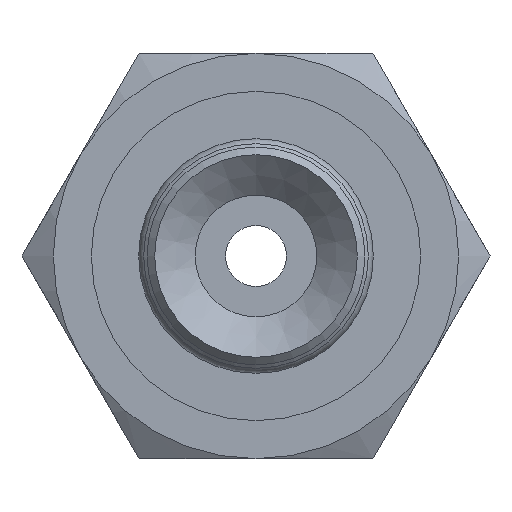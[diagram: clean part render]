
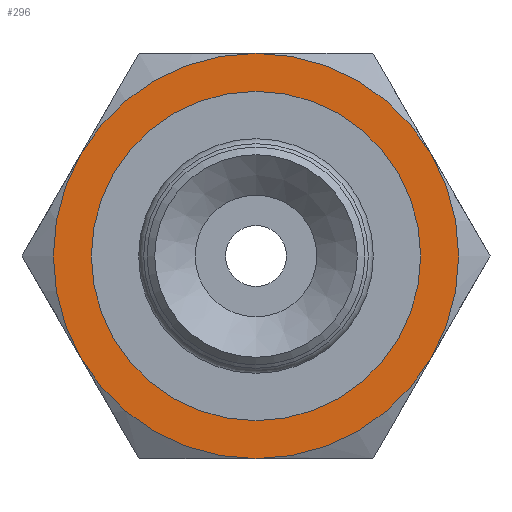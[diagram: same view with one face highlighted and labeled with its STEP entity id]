
A CAD part, front view. The second image highlights one B-rep face of the part: STEP entity #296.
In plain terms, the highlighted planar face has unit normal (0, -1, 0).
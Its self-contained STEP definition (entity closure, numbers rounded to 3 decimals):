
#296=ADVANCED_FACE('',(#407,#408),#409,.T.);
#407=FACE_BOUND('',#585,.T.);
#408=FACE_OUTER_BOUND('',#586,.T.);
#409=PLANE('',#587);
#585=EDGE_LOOP('',(#848));
#586=EDGE_LOOP('',(#849,#850,#851,#852,#853,#854));
#587=AXIS2_PLACEMENT_3D('',#855,#856,#857);
#848=ORIENTED_EDGE('',*,*,#1111,.F.);
#849=ORIENTED_EDGE('',*,*,#1095,.T.);
#850=ORIENTED_EDGE('',*,*,#1098,.T.);
#851=ORIENTED_EDGE('',*,*,#1087,.T.);
#852=ORIENTED_EDGE('',*,*,#1093,.T.);
#853=ORIENTED_EDGE('',*,*,#1084,.T.);
#854=ORIENTED_EDGE('',*,*,#1101,.T.);
#855=CARTESIAN_POINT('',(3.25,0.,0.0));
#856=DIRECTION('',(0.0,-1.0,0.0));
#857=DIRECTION('',(0.0,0.0,-1.0));
#1084=EDGE_CURVE('',#1181,#1192,#1194,.T.);
#1087=EDGE_CURVE('',#1196,#1198,#1200,.T.);
#1093=EDGE_CURVE('',#1198,#1181,#1209,.T.);
#1095=EDGE_CURVE('',#1213,#1210,#1214,.T.);
#1098=EDGE_CURVE('',#1210,#1196,#1218,.T.);
#1101=EDGE_CURVE('',#1192,#1213,#1221,.T.);
#1111=EDGE_CURVE('',#1238,#1238,#1239,.T.);
#1181=VERTEX_POINT('',#1339);
#1192=VERTEX_POINT('',#1358);
#1194=CIRCLE('',#1362,4.0);
#1196=VERTEX_POINT('',#1364);
#1198=VERTEX_POINT('',#1368);
#1200=CIRCLE('',#1372,4.0);
#1209=CIRCLE('',#1388,4.0);
#1210=VERTEX_POINT('',#1389);
#1213=VERTEX_POINT('',#1394);
#1214=CIRCLE('',#1395,4.0);
#1218=CIRCLE('',#1403,4.0);
#1221=CIRCLE('',#1410,4.0);
#1238=VERTEX_POINT('',#1434);
#1239=CIRCLE('',#1435,3.25);
#1339=CARTESIAN_POINT('',(-3.464,0.,2.0));
#1358=CARTESIAN_POINT('',(-3.464,0.,-2.0));
#1362=AXIS2_PLACEMENT_3D('',#1557,#1558,#1559);
#1364=CARTESIAN_POINT('',(3.464,0.,2.0));
#1368=CARTESIAN_POINT('',(0.0,0.,4.0));
#1372=AXIS2_PLACEMENT_3D('',#1560,#1561,#1562);
#1388=AXIS2_PLACEMENT_3D('',#1566,#1567,#1568);
#1389=CARTESIAN_POINT('',(3.464,0.,-2.0));
#1394=CARTESIAN_POINT('',(0.0,0.,-4.0));
#1395=AXIS2_PLACEMENT_3D('',#1569,#1570,#1571);
#1403=AXIS2_PLACEMENT_3D('',#1572,#1573,#1574);
#1410=AXIS2_PLACEMENT_3D('',#1575,#1576,#1577);
#1434=CARTESIAN_POINT('',(0.0,0.,-3.25));
#1435=AXIS2_PLACEMENT_3D('',#1591,#1592,#1593);
#1557=CARTESIAN_POINT('',(0.0,0.,0.0));
#1558=DIRECTION('',(0.0,-1.0,0.0));
#1559=DIRECTION('',(0.0,0.0,-1.0));
#1560=CARTESIAN_POINT('',(0.0,0.,0.0));
#1561=DIRECTION('',(0.0,-1.0,0.0));
#1562=DIRECTION('',(0.0,0.0,-1.0));
#1566=CARTESIAN_POINT('',(0.0,0.,0.0));
#1567=DIRECTION('',(0.0,-1.0,0.0));
#1568=DIRECTION('',(0.0,0.0,-1.0));
#1569=CARTESIAN_POINT('',(0.0,0.,0.0));
#1570=DIRECTION('',(0.0,-1.0,0.0));
#1571=DIRECTION('',(0.0,0.0,-1.0));
#1572=CARTESIAN_POINT('',(0.0,0.,0.0));
#1573=DIRECTION('',(0.0,-1.0,0.0));
#1574=DIRECTION('',(0.0,0.0,-1.0));
#1575=CARTESIAN_POINT('',(0.0,0.,0.0));
#1576=DIRECTION('',(0.0,-1.0,0.0));
#1577=DIRECTION('',(0.0,0.0,-1.0));
#1591=CARTESIAN_POINT('',(0.0,0.,0.0));
#1592=DIRECTION('',(0.0,-1.0,0.0));
#1593=DIRECTION('',(0.0,0.0,-1.0));
